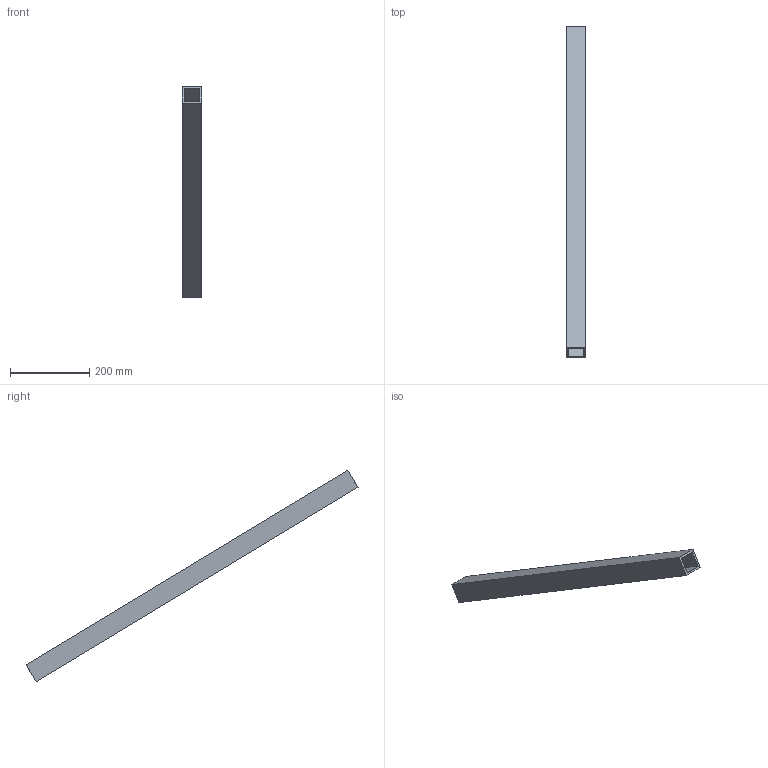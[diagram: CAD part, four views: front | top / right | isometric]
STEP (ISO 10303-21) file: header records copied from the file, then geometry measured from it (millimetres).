
FILE_DESCRIPTION(('Open CASCADE Model'),'2;1');
FILE_NAME('Open CASCADE Shape Model','2026-09-19T12:55:26',('Author'),( 'Open CASCADE'),'Open CASCADE STEP processor 7.9','Open CASCADE 7.9' ,'Unknown');
FILE_SCHEMA(('AUTOMOTIVE_DESIGN { 1 0 10303 214 1 1 1 1 }'));
Length unit declared in the file: millimetre
Products named in the file (1): Open CASCADE STEP translator 7.9 488
Bounding box: 50 x 839.1 x 533.83 mm (x, y, z)
Volume: 855000 mm3; surface area: 343800 mm2
Topology: 1 solids, 1 shells, 10 faces, 24 edges, 16 vertices
Faces by surface type: plane 10
Entity records: 614 total; most frequent: CARTESIAN_POINT 99, DIRECTION 94, LINE 72, VECTOR 72, ORIENTED_EDGE 48, PCURVE 48, DEFINITIONAL_REPRESENTATION 48, EDGE_CURVE 24
